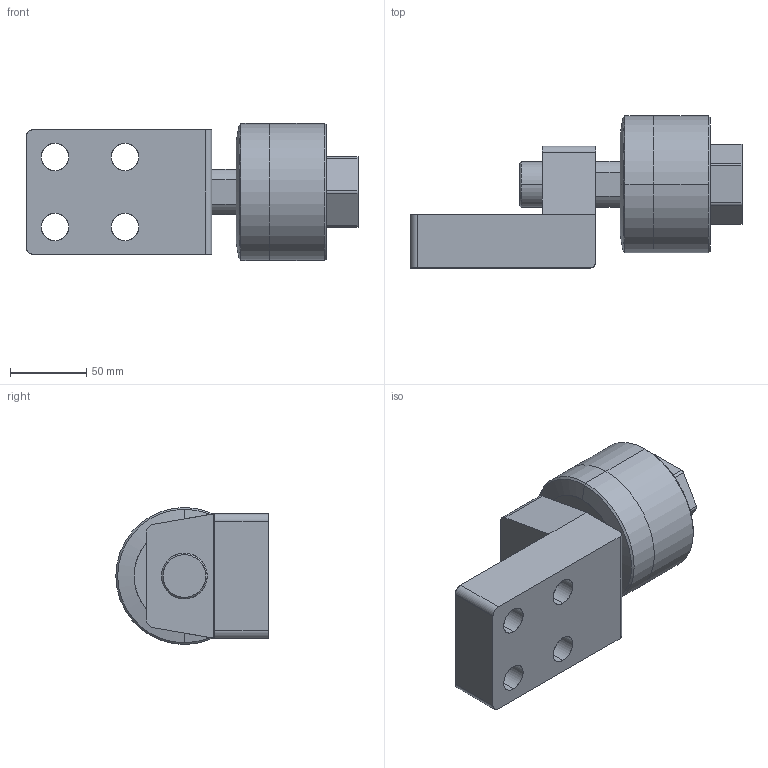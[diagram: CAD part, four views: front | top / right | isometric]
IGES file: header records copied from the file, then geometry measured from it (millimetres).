
Start section: SolidWorks IGES file using analytic representation for surfaces
Global section: file name: C:\Users\Toshiba\Desktop\FCM30-1.5-L.IGS; native system: SolidWorks 2014; preprocessor: SolidWorks 2014; author: Toshiba; date: 160414.100107; units: millimetre
Bounding box: 218 x 100 x 90 mm (x, y, z)
Surface area: 91337.9 mm2 (no closed solid volume)
Topology: 0 solids, 0 shells, 71 faces, 1200 edges, 1200 vertices
Faces by surface type: revolution 42, bspline 29
